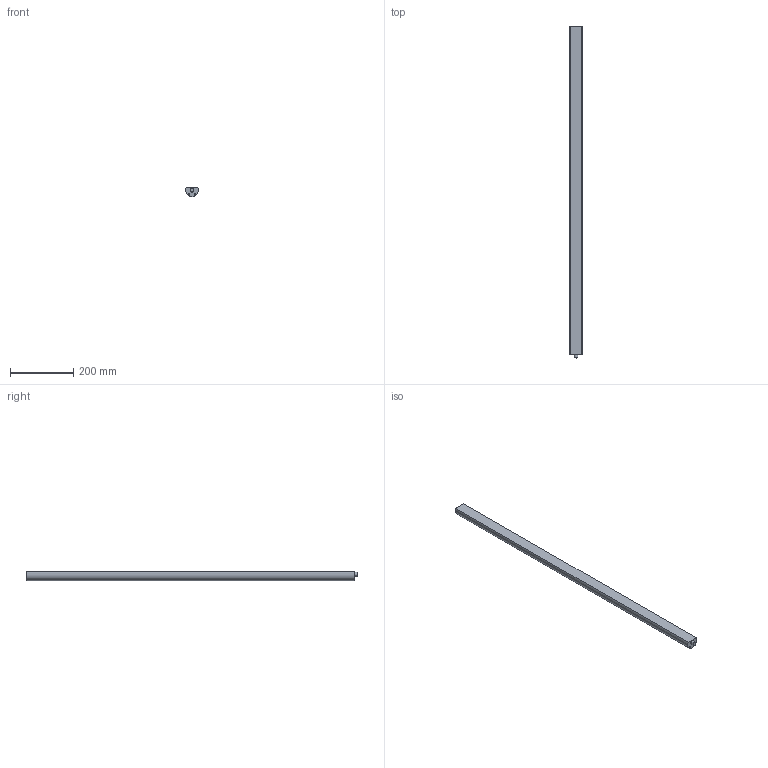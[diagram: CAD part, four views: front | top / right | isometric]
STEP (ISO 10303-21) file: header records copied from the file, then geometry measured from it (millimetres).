
FILE_DESCRIPTION(('FreeCAD Model'),'2;1');
FILE_NAME('Open CASCADE Shape Model','2024-04-10T10:59:27',(''),(''), 'Open CASCADE STEP processor 7.6','FreeCAD','Unknown');
FILE_SCHEMA(('AUTOMOTIVE_DESIGN { 1 0 10303 214 1 1 1 1 }'));
Length unit declared in the file: millimetre
Products named in the file (1): Körper
Bounding box: 39.96 x 1047 x 29 mm (x, y, z)
Volume: 979187.9 mm3; surface area: 153038.5 mm2
Topology: 1 solids, 1 shells, 8 faces, 15 edges, 10 vertices
Faces by surface type: cylinder 4, plane 4
Full cylindrical faces by diameter (mm): 4.5 x2, 12 x1
Entity records: 237 total; most frequent: DIRECTION 41, CARTESIAN_POINT 34, ORIENTED_EDGE 30, AXIS2_PLACEMENT_3D 17, EDGE_CURVE 15, FACE_BOUND 13, EDGE_LOOP 13, VERTEX_POINT 10
